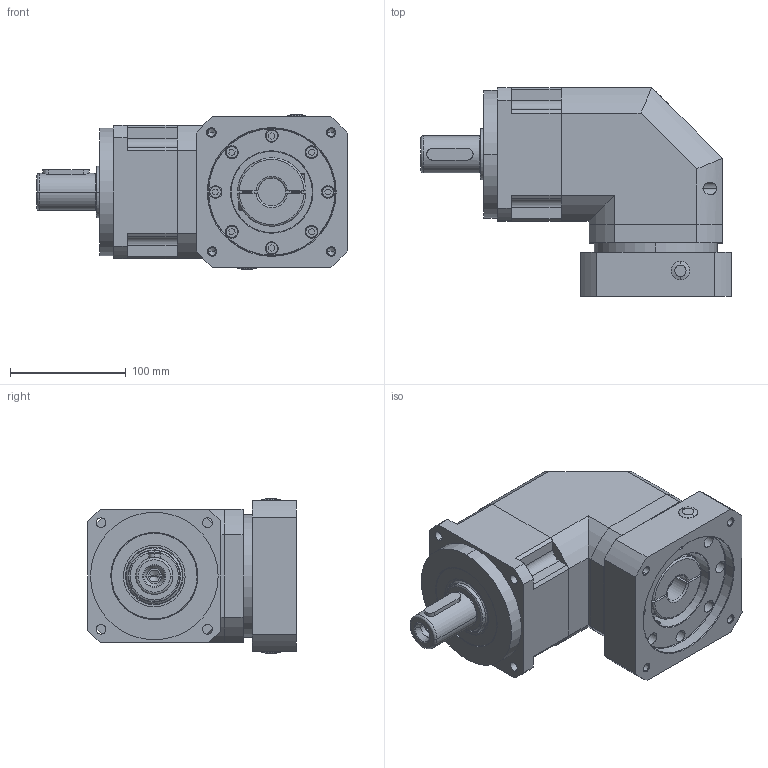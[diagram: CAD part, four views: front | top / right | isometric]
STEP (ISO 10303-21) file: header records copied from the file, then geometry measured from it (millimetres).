
FILE_DESCRIPTION (( 'STEP AP203' ), '1' );
FILE_NAME ('PHFZ115单段外观(入力24-110-145-M8，分体式)-凸台12.STEP', '2020-01-15T03:22:22', ( 'ylmfeng' ), ( 'ylmfeng.com' ), 'SwSTEP 2.0', 'SolidWorks 2014', '' );
FILE_SCHEMA (( 'CONFIG_CONTROL_DESIGN' ));
Length unit declared in the file: millimetre
Products named in the file (1): PHFZ115单段外观(入力24-110-145-M8，分体式)-凸台12
Bounding box: 267.5 x 180 x 133 mm (x, y, z)
Volume: 3004293.4 mm3; surface area: 308430.4 mm2
Topology: 32 solids, 32 shells, 888 faces, 2100 edges, 1315 vertices
Faces by surface type: plane 404, cylinder 321, cone 73, torus 58, bspline 28, sphere 4
Entity records: 30650 total; most frequent: CARTESIAN_POINT 10104, DIRECTION 4389, ORIENTED_EDGE 4140, EDGE_CURVE 2070, AXIS2_PLACEMENT_3D 1666, VERTEX_POINT 1315, VECTOR 1057, LINE 1057
